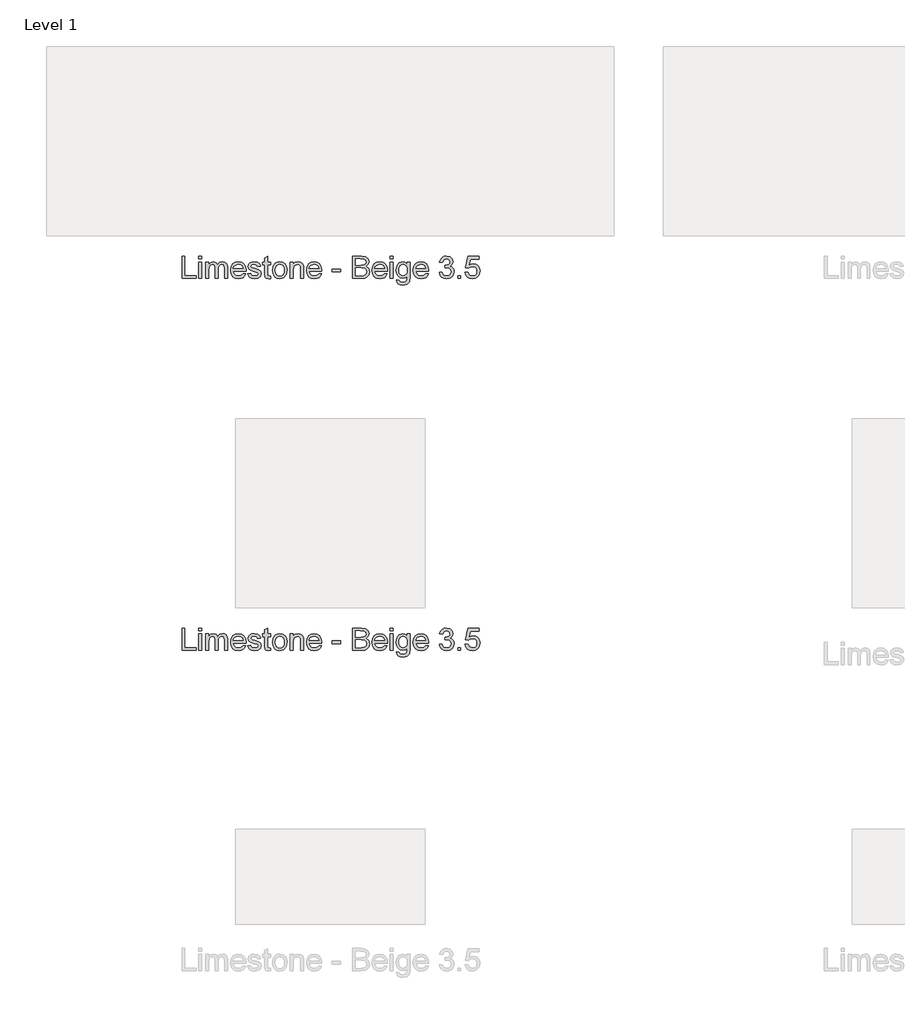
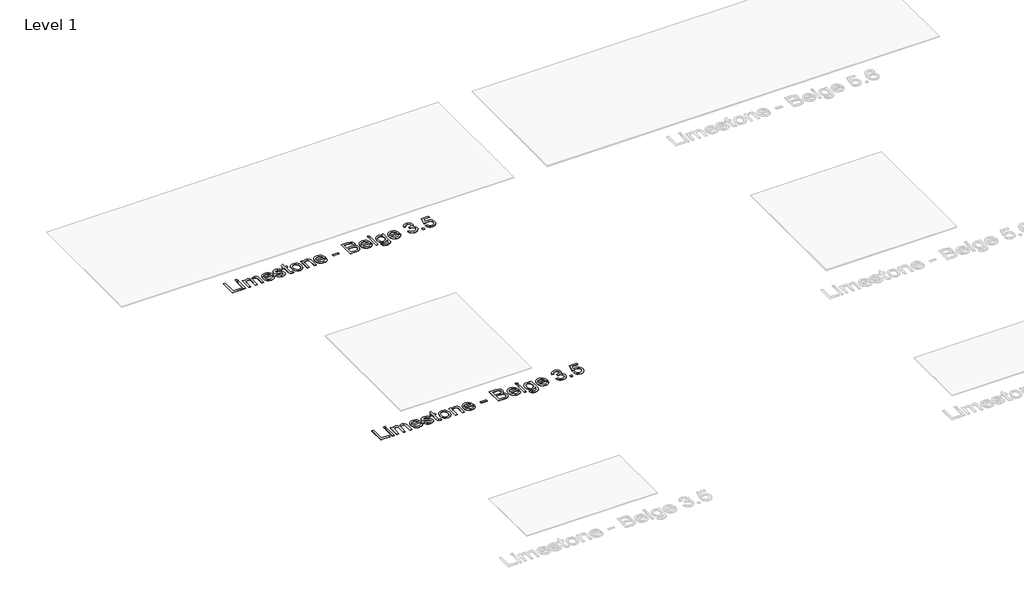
# One storey, part 71 of 80: 2 proxies.
"""IFC4 building model written with IfcOpenShell, lengths in millimetres."""

from ifc_helpers import new_model, si_unit, origin, origin_with_axes, place, context, project, spatial, polyline, outline, extrude, element, save

model = new_model("IFC4")

# Units and contexts
model_context = context("Model", 3, world=origin())
ifc_project = project(units=[si_unit("LENGTHUNIT", "METRE", prefix="MILLI")], contexts=[model_context])

# Site, building, storey
site = spatial("IfcSite", under=ifc_project)
building = spatial("IfcBuilding", under=site)
storey = spatial("IfcBuildingStorey", under=building, Name="Level 1", Elevation=0.0)

# Proxies
placement = place(None, origin())
element("IfcBuildingElementProxy", 1, Name="24\" Arial", ObjectType="24\" Arial", at=placement, inside=storey, context=model_context, shape_type="SweptSolid", body=[
    extrude(outline(polyline([(12550.7700459, 10765.2173189), (12550.7700459, 10883.3711651), (12565.5392767, 10883.3711651), (12565.5392767, 10779.9865497), (12624.6161998, 10779.9865497), (12624.6161998, 10765.2173189), (12550.7700459, 10765.2173189)])), origin_with_axes(), (0.0, 0.0, 1.0), 2.0),
    extrude(outline(polyline([(12639.3854306, 10868.6019343), (12639.3854306, 10883.3711651), (12654.1546613, 10883.3711651), (12654.1546613, 10868.6019343), (12639.3854306, 10868.6019343)])), origin_with_axes(), (0.0, 0.0, 1.0), 2.0),
    extrude(outline(polyline([(12639.3854306, 10765.2173189), (12639.3854306, 10851.9865497), (12654.1546613, 10851.9865497), (12654.1546613, 10765.2173189), (12639.3854306, 10765.2173189)])), origin_with_axes(), (0.0, 0.0, 1.0), 2.0),
    extrude(outline(polyline([(12676.3085075, 10765.2173189), (12676.3085075, 10851.9865497), (12691.0777383, 10851.9865497), (12691.0777383, 10837.7077035), (12701.2315844, 10849.4048189), (12715.6835075, 10853.8327035), (12730.4815844, 10849.3182805), (12738.6161998, 10836.669242), (12750.1402383, 10849.5418381), (12764.6931229, 10853.8327035), (12775.7952863, 10852.0478478), (12784.0056229, 10846.6932805), (12789.0789402, 10837.6247708), (12790.7700459, 10824.6980881), (12790.7700459, 10765.2173189), (12776.0008152, 10765.2173189), (12776.0008152, 10818.3519343), (12774.6306229, 10830.6836651), (12769.6690844, 10836.7557805), (12761.2315844, 10839.0634728), (12753.2303825, 10837.5851074), (12746.7075459, 10833.1500112), (12742.3698056, 10825.4552997), (12740.9238921, 10814.1980881), (12740.9238921, 10765.2173189), (12726.1546613, 10765.2173189), (12726.1546613, 10819.9961651), (12722.7363921, 10834.3038574), (12711.5296613, 10839.0634728), (12700.596969, 10835.8903958), (12693.3277383, 10826.6019343), (12691.0777383, 10808.9769343), (12691.0777383, 10765.2173189), (12676.3085075, 10765.2173189)])), origin_with_axes(), (0.0, 0.0, 1.0), 2.0),
    extrude(outline(polyline([(12873.6738921, 10791.0634728), (12888.1546613, 10789.2173189), (12882.9371133, 10778.3062612), (12874.6113921, 10770.1500112), (12863.3649979, 10765.0658766), (12849.3854306, 10763.3711651), (12832.0561036, 10766.2954439), (12818.721969, 10775.0682805), (12810.2195652, 10789.1199631), (12807.3854306, 10807.8807805), (12810.2484113, 10827.2726074), (12818.8373536, 10841.7750112), (12831.9911998, 10850.8182805), (12848.5488921, 10853.8327035), (12864.5909594, 10850.825492), (12877.409469, 10841.8038574), (12885.8145171, 10827.3302997), (12888.6161998, 10807.9673189), (12888.5296613, 10803.9865497), (12822.1546613, 10803.9865497), (12824.7111517, 10792.9312612), (12830.6498536, 10784.8038574), (12839.2207671, 10779.8062612), (12849.6738921, 10778.1403958), (12864.1546613, 10781.2269343), (12873.6738921, 10791.0634728)]), holes=[polyline([(12822.1546613, 10818.7557805), (12873.846969, 10818.7557805), (12867.9335075, 10832.1403958), (12859.3229306, 10837.3327035), (12848.4911998, 10839.0634728), (12830.3036998, 10833.5394343), (12824.581344, 10827.0815016), (12822.1546613, 10818.7557805)])]), origin_with_axes(), (0.0, 0.0, 1.0), 2.0),
    extrude(outline(polyline([(12897.846969, 10791.0634728), (12912.6161998, 10792.9096266), (12919.4527383, 10781.9480881), (12935.1161998, 10778.1403958), (12950.1738921, 10781.6307805), (12955.0777383, 10789.8230881), (12950.1450459, 10796.4577035), (12934.9431229, 10800.669242), (12912.7027383, 10807.8952035), (12902.9960075, 10816.3327035), (12899.6931229, 10828.2461651), (12902.346969, 10839.2509728), (12909.5873536, 10847.6596266), (12918.9767767, 10852.0298189), (12931.6835075, 10853.8327035), (12949.6546613, 10850.9336651), (12961.0777383, 10843.0875112), (12966.1546613, 10829.8327035), (12951.3854306, 10827.9865497), (12945.8325459, 10836.1355881), (12932.8373536, 10839.0634728), (12918.7027383, 10836.2653958), (12914.4623536, 10829.7461651), (12916.221969, 10825.4480881), (12921.7315844, 10822.1884728), (12934.4527383, 10819.044242), (12956.1306229, 10812.0923189), (12966.1979306, 10804.2173189), (12969.846969, 10791.3807805), (12965.5633152, 10777.2461651), (12953.2027383, 10766.9913574), (12934.9142767, 10763.3711651), (12920.0224498, 10765.1163574), (12909.1546613, 10770.3519343), (12901.8998536, 10779.0202035), (12897.846969, 10791.0634728)])), origin_with_axes(), (0.0, 0.0, 1.0), 2.0),
    extrude(outline(polyline([(13017.846969, 10777.5346266), (13019.6931229, 10764.7846266), (13008.6450459, 10763.3711651), (12996.2700459, 10765.8230881), (12990.096969, 10772.2557805), (12988.3085075, 10789.0153958), (12988.3085075, 10837.2173189), (12977.2315844, 10837.2173189), (12977.2315844, 10851.9865497), (12988.3085075, 10851.9865497), (12988.3085075, 10873.0730881), (13003.0777383, 10881.7557805), (13003.0777383, 10851.9865497), (13017.846969, 10851.9865497), (13017.846969, 10837.2173189), (13003.0777383, 10837.2173189), (13003.0777383, 10789.4480881), (13003.8565844, 10781.8327035), (13006.3806229, 10779.1355881), (13011.4142767, 10778.1403958), (13017.846969, 10777.5346266)])), origin_with_axes(), (0.0, 0.0, 1.0), 2.0),
    extrude(outline(polyline([(13028.9238921, 10808.6019343), (13032.1186036, 10829.5226074), (13041.7027383, 10844.2269343), (13053.5440844, 10851.4312612), (13067.721969, 10853.8327035), (13083.237594, 10850.9084247), (13095.6306229, 10842.1355881), (13103.7544209, 10828.2065016), (13106.4623536, 10809.8134728), (13101.6738921, 10783.5346266), (13087.7267767, 10768.6644343), (13067.721969, 10763.3711651), (13052.018844, 10766.2846266), (13039.6402383, 10775.0250112), (13031.6029786, 10789.2461651), (13028.9238921, 10808.6019343)]), holes=[polyline([(13043.6931229, 10808.6307805), (13045.4022575, 10795.2641939), (13050.5296613, 10785.7413574), (13058.2460075, 10780.0406362), (13067.721969, 10778.1403958), (13077.1546613, 10780.0514535), (13084.8565844, 10785.7846266), (13089.9839883, 10795.4336651), (13091.6931229, 10809.0923189), (13089.9731709, 10822.0694824), (13084.8133152, 10831.4625112), (13077.1005748, 10837.1632324), (13067.721969, 10839.0634728), (13058.2460075, 10837.1704439), (13050.5296613, 10831.4913574), (13045.4022575, 10821.9901555), (13043.6931229, 10808.6307805)])]), origin_with_axes(), (0.0, 0.0, 1.0), 2.0),
    extrude(outline(polyline([(13123.0777383, 10765.2173189), (13123.0777383, 10851.9865497), (13137.846969, 10851.9865497), (13137.846969, 10839.8711651), (13149.1402383, 10850.3423189), (13164.5585075, 10853.8327035), (13178.5056229, 10851.0202035), (13188.0248536, 10843.6355881), (13192.4527383, 10832.7750112), (13193.2315844, 10818.4961651), (13193.2315844, 10765.2173189), (13178.4623536, 10765.2173189), (13178.4623536, 10816.5057805), (13176.7604306, 10829.5730881), (13170.7460075, 10836.481742), (13160.6065844, 10839.0634728), (13144.5825459, 10833.2653958), (13139.5308633, 10824.8639535), (13137.846969, 10811.2557805), (13137.846969, 10765.2173189), (13123.0777383, 10765.2173189)])), origin_with_axes(), (0.0, 0.0, 1.0), 2.0),
    extrude(outline(polyline([(13274.2892767, 10791.0634728), (13288.7700459, 10789.2173189), (13283.5524979, 10778.3062612), (13275.2267767, 10770.1500112), (13263.9803825, 10765.0658766), (13250.0008152, 10763.3711651), (13232.6714883, 10766.2954439), (13219.3373536, 10775.0682805), (13210.8349498, 10789.1199631), (13208.0008152, 10807.8807805), (13210.8637959, 10827.2726074), (13219.4527383, 10841.7750112), (13232.6065844, 10850.8182805), (13249.1642767, 10853.8327035), (13265.206344, 10850.825492), (13278.0248536, 10841.8038574), (13286.4299017, 10827.3302997), (13289.2315844, 10807.9673189), (13289.1450459, 10803.9865497), (13222.7700459, 10803.9865497), (13225.3265363, 10792.9312612), (13231.2652383, 10784.8038574), (13239.8361517, 10779.8062612), (13250.2892767, 10778.1403958), (13264.7700459, 10781.2269343), (13274.2892767, 10791.0634728)]), holes=[polyline([(13222.7700459, 10818.7557805), (13274.4623536, 10818.7557805), (13268.5488921, 10832.1403958), (13259.9383152, 10837.3327035), (13249.1065844, 10839.0634728), (13230.9190844, 10833.5394343), (13225.1967286, 10827.0815016), (13222.7700459, 10818.7557805)])]), origin_with_axes(), (0.0, 0.0, 1.0), 2.0),
    extrude(outline(polyline([(13342.7700459, 10800.294242), (13342.7700459, 10815.0634728), (13388.9238921, 10815.0634728), (13388.9238921, 10800.294242), (13342.7700459, 10800.294242)])), origin_with_axes(), (0.0, 0.0, 1.0), 2.0),
    extrude(outline(polyline([(13453.5392767, 10765.2173189), (13453.5392767, 10883.3711651), (13498.6258152, 10883.3711651), (13520.7075459, 10879.8952035), (13533.7460075, 10869.2077035), (13538.4623536, 10854.0923189), (13534.4960075, 10840.2894343), (13522.5104306, 10829.8327035), (13537.0633152, 10818.8134728), (13542.1546613, 10800.4384728), (13538.6786998, 10784.5586651), (13530.0681229, 10773.2509728), (13517.2171613, 10767.2509728), (13498.2796613, 10765.2173189), (13453.5392767, 10765.2173189)]), holes=[polyline([(13468.3085075, 10779.9865497), (13498.596969, 10779.9865497), (13509.5585075, 10780.5634728), (13518.8325459, 10783.7798189), (13524.9767767, 10790.3423189), (13527.3854306, 10800.294242), (13524.5585075, 10811.7750112), (13515.3998536, 10818.6259728), (13497.1546613, 10820.6019343), (13468.3085075, 10820.6019343), (13468.3085075, 10779.9865497)]), polyline([(13468.3085075, 10835.3711651), (13495.2796613, 10835.3711651), (13511.0296613, 10836.6403958), (13520.5056229, 10842.106742), (13523.6931229, 10851.7269343), (13520.721969, 10861.3615497), (13512.2123536, 10867.0586651), (13493.2315844, 10868.6019343), (13468.3085075, 10868.6019343), (13468.3085075, 10835.3711651)])]), origin_with_axes(), (0.0, 0.0, 1.0), 2.0),
    extrude(outline(polyline([(13621.3661998, 10791.0634728), (13635.846969, 10789.2173189), (13630.6294209, 10778.3062612), (13622.3036998, 10770.1500112), (13611.0573056, 10765.0658766), (13597.0777383, 10763.3711651), (13579.7484113, 10766.2954439), (13566.4142767, 10775.0682805), (13557.9118729, 10789.1199631), (13555.0777383, 10807.8807805), (13557.940719, 10827.2726074), (13566.5296613, 10841.7750112), (13579.6835075, 10850.8182805), (13596.2411998, 10853.8327035), (13612.2832671, 10850.825492), (13625.1017767, 10841.8038574), (13633.5068248, 10827.3302997), (13636.3085075, 10807.9673189), (13636.221969, 10803.9865497), (13569.846969, 10803.9865497), (13572.4034594, 10792.9312612), (13578.3421613, 10784.8038574), (13586.9130748, 10779.8062612), (13597.3661998, 10778.1403958), (13611.846969, 10781.2269343), (13621.3661998, 10791.0634728)]), holes=[polyline([(13569.846969, 10818.7557805), (13621.5392767, 10818.7557805), (13615.6258152, 10832.1403958), (13607.0152383, 10837.3327035), (13596.1835075, 10839.0634728), (13577.9960075, 10833.5394343), (13572.2736517, 10827.0815016), (13569.846969, 10818.7557805)])]), origin_with_axes(), (0.0, 0.0, 1.0), 2.0),
    extrude(outline(polyline([(13651.0777383, 10765.2173189), (13651.0777383, 10851.9865497), (13665.846969, 10851.9865497), (13665.846969, 10765.2173189), (13651.0777383, 10765.2173189)])), origin_with_axes(), (0.0, 0.0, 1.0), 2.0),
    extrude(outline(polyline([(13651.0777383, 10868.6019343), (13651.0777383, 10883.3711651), (13665.846969, 10883.3711651), (13665.846969, 10868.6019343), (13651.0777383, 10868.6019343)])), origin_with_axes(), (0.0, 0.0, 1.0), 2.0),
    extrude(outline(polyline([(13684.3085075, 10757.8327035), (13699.0777383, 10755.9865497), (13703.8661998, 10748.1980881), (13718.2027383, 10744.9096266), (13733.3181229, 10748.6307805), (13740.5296613, 10759.0730881), (13741.5392767, 10776.294242), (13731.1402383, 10767.9865497), (13718.4623536, 10765.2173189), (13703.2351902, 10768.4408766), (13691.8806229, 10778.1115497), (13684.8169209, 10792.2894343), (13682.4623536, 10809.0346266), (13686.6883152, 10831.9240497), (13698.9190844, 10848.1211651), (13717.7411998, 10853.8327035), (13730.9166806, 10850.6019343), (13741.5392767, 10840.9096266), (13741.5392767, 10851.9865497), (13756.3085075, 10851.9865497), (13756.3085075, 10777.0730881), (13752.2700459, 10748.3855881), (13739.4767767, 10735.044242), (13717.9142767, 10730.1403958), (13704.1726902, 10731.8675593), (13693.3517767, 10737.0490497), (13686.4106709, 10745.6992901), (13684.3085075, 10757.8327035)]), holes=[polyline([(13697.2315844, 10810.044242), (13698.8073056, 10796.497367), (13703.534469, 10787.1836651), (13710.6414402, 10781.7858285), (13719.3565844, 10779.9865497), (13728.0068248, 10781.7750112), (13735.1498536, 10787.1403958), (13739.9419209, 10796.3351074), (13741.5392767, 10809.6115497), (13739.8950459, 10822.4156362), (13734.9623536, 10831.6355881), (13727.7147575, 10837.2065016), (13719.1258152, 10839.0634728), (13710.6919209, 10837.2353478), (13703.6210075, 10831.7509728), (13698.8289402, 10822.6680401), (13697.2315844, 10810.044242)])]), origin_with_axes(), (0.0, 0.0, 1.0), 2.0),
    extrude(outline(polyline([(13839.2123536, 10791.0634728), (13853.6931229, 10789.2173189), (13848.4755748, 10778.3062612), (13840.1498536, 10770.1500112), (13828.9034594, 10765.0658766), (13814.9238921, 10763.3711651), (13797.5945652, 10766.2954439), (13784.2604306, 10775.0682805), (13775.7580267, 10789.1199631), (13772.9238921, 10807.8807805), (13775.7868729, 10827.2726074), (13784.3758152, 10841.7750112), (13797.5296613, 10850.8182805), (13814.0873536, 10853.8327035), (13830.1294209, 10850.825492), (13842.9479306, 10841.8038574), (13851.3529786, 10827.3302997), (13854.1546613, 10807.9673189), (13854.0681229, 10803.9865497), (13787.6931229, 10803.9865497), (13790.2496133, 10792.9312612), (13796.1883152, 10784.8038574), (13804.7592286, 10779.8062612), (13815.2123536, 10778.1403958), (13829.6931229, 10781.2269343), (13839.2123536, 10791.0634728)]), holes=[polyline([(13787.6931229, 10818.7557805), (13839.3854306, 10818.7557805), (13833.471969, 10832.1403958), (13824.8613921, 10837.3327035), (13814.0296613, 10839.0634728), (13795.8421613, 10833.5394343), (13790.1198056, 10827.0815016), (13787.6931229, 10818.7557805)])]), origin_with_axes(), (0.0, 0.0, 1.0), 2.0),
    extrude(outline(polyline([(13911.3854306, 10796.6019343), (13926.1546613, 10798.4480881), (13934.3036998, 10782.9000112), (13949.5488921, 10778.1403958), (13959.6738921, 10779.7774151), (13967.4911998, 10784.6884728), (13972.4887959, 10792.0153958), (13974.1546613, 10800.9000112), (13972.503219, 10809.3339055), (13967.5488921, 10816.1740497), (13960.0488921, 10820.7065016), (13950.7604306, 10822.2173189), (13940.4046613, 10820.6019343), (13942.0488921, 10835.3711651), (13944.4142767, 10835.1980881), (13961.1738921, 10839.4384728), (13966.7556229, 10844.8182805), (13968.6161998, 10852.4769343), (13963.221969, 10864.0298189), (13949.3181229, 10868.6019343), (13935.2411998, 10863.9865497), (13928.0008152, 10850.1403958), (13913.2315844, 10851.9865497), (13917.5801421, 10865.2485689), (13925.3181229, 10875.1500112), (13935.9046613, 10881.3158766), (13948.7988921, 10883.3711651), (13966.6113921, 10879.3182805), (13979.0729306, 10868.2413574), (13983.3854306, 10853.3423189), (13979.2892767, 10839.7269343), (13967.1738921, 10829.9480881), (13976.4190844, 10826.2125112), (13983.2700459, 10819.8519343), (13987.5104306, 10811.2125112), (13988.9238921, 10800.6403958), (13986.096969, 10786.2461651), (13977.6161998, 10774.2173189), (13964.815719, 10766.0827035), (13949.0296613, 10763.3711651), (13934.7508152, 10765.6860689), (13923.1258152, 10772.6307805), (13915.0416806, 10783.2533766), (13911.3854306, 10796.6019343)])), origin_with_axes(), (0.0, 0.0, 1.0), 2.0),
    extrude(outline(polyline([(14009.2315844, 10765.2173189), (14009.2315844, 10779.9865497), (14024.0008152, 10779.9865497), (14024.0008152, 10765.2173189), (14009.2315844, 10765.2173189)])), origin_with_axes(), (0.0, 0.0, 1.0), 2.0),
    extrude(outline(polyline([(14048.0008152, 10796.6019343), (14062.7700459, 10798.4480881), (14070.2123536, 10783.231742), (14085.6450459, 10778.1403958), (14096.2315844, 10779.9108285), (14104.1642767, 10785.2221266), (14109.1186036, 10793.4613093), (14110.7700459, 10804.0153958), (14109.2231709, 10813.9528958), (14104.5825459, 10821.5538574), (14096.8121133, 10826.3783766), (14085.8758152, 10827.9865497), (14072.909469, 10825.419242), (14064.6161998, 10818.7557805), (14049.846969, 10820.6019343), (14062.7700459, 10881.5250112), (14120.0008152, 10881.5250112), (14120.0008152, 10866.7557805), (14074.7123536, 10866.7557805), (14068.3950459, 10834.2173189), (14078.9455267, 10840.6211651), (14090.0008152, 10842.7557805), (14103.800094, 10840.1091458), (14115.2556229, 10832.169242), (14122.9683633, 10820.0682805), (14125.5392767, 10804.9384728), (14123.2243729, 10790.169242), (14116.2796613, 10777.5346266), (14102.9815844, 10766.9120305), (14085.5873536, 10763.3711651), (14071.081344, 10765.6464055), (14059.5248536, 10772.4721266), (14051.6029786, 10783.0550593), (14048.0008152, 10796.6019343)])), origin_with_axes(), (0.0, 0.0, 1.0), 2.0),
])
element("IfcBuildingElementProxy", 2, Name="24\" Arial", ObjectType="24\" Arial", at=placement, inside=storey, context=model_context, shape_type="SweptSolid", body=[
    extrude(outline(polyline([(12550.7700459, 8799.8902761), (12550.7700459, 8918.0441223), (12565.5392767, 8918.0441223), (12565.5392767, 8814.6595069), (12624.6161998, 8814.6595069), (12624.6161998, 8799.8902761), (12550.7700459, 8799.8902761)])), origin_with_axes(), (0.0, 0.0, 1.0), 2.0),
    extrude(outline(polyline([(12639.3854306, 8903.2748915), (12639.3854306, 8918.0441223), (12654.1546613, 8918.0441223), (12654.1546613, 8903.2748915), (12639.3854306, 8903.2748915)])), origin_with_axes(), (0.0, 0.0, 1.0), 2.0),
    extrude(outline(polyline([(12639.3854306, 8799.8902761), (12639.3854306, 8886.6595069), (12654.1546613, 8886.6595069), (12654.1546613, 8799.8902761), (12639.3854306, 8799.8902761)])), origin_with_axes(), (0.0, 0.0, 1.0), 2.0),
    extrude(outline(polyline([(12676.3085075, 8799.8902761), (12676.3085075, 8886.6595069), (12691.0777383, 8886.6595069), (12691.0777383, 8872.3806607), (12701.2315844, 8884.0777761), (12715.6835075, 8888.5056607), (12730.4815844, 8883.9912376), (12738.6161998, 8871.3421992), (12750.1402383, 8884.2147953), (12764.6931229, 8888.5056607), (12775.7952863, 8886.720805), (12784.0056229, 8881.3662376), (12789.0789402, 8872.297728), (12790.7700459, 8859.3710453), (12790.7700459, 8799.8902761), (12776.0008152, 8799.8902761), (12776.0008152, 8853.0248915), (12774.6306229, 8865.3566223), (12769.6690844, 8871.4287376), (12761.2315844, 8873.73643), (12753.2303825, 8872.2580646), (12746.7075459, 8867.8229684), (12742.3698056, 8860.1282569), (12740.9238921, 8848.8710453), (12740.9238921, 8799.8902761), (12726.1546613, 8799.8902761), (12726.1546613, 8854.6691223), (12722.7363921, 8868.9768146), (12711.5296613, 8873.73643), (12700.596969, 8870.563353), (12693.3277383, 8861.2748915), (12691.0777383, 8843.6498915), (12691.0777383, 8799.8902761), (12676.3085075, 8799.8902761)])), origin_with_axes(), (0.0, 0.0, 1.0), 2.0),
    extrude(outline(polyline([(12873.6738921, 8825.73643), (12888.1546613, 8823.8902761), (12882.9371133, 8812.9792184), (12874.6113921, 8804.8229684), (12863.3649979, 8799.7388338), (12849.3854306, 8798.0441223), (12832.0561036, 8800.9684011), (12818.721969, 8809.7412376), (12810.2195652, 8823.7929203), (12807.3854306, 8842.5537376), (12810.2484113, 8861.9455646), (12818.8373536, 8876.4479684), (12831.9911998, 8885.4912376), (12848.5488921, 8888.5056607), (12864.5909594, 8885.4984492), (12877.409469, 8876.4768146), (12885.8145171, 8862.0032569), (12888.6161998, 8842.6402761), (12888.5296613, 8838.6595069), (12822.1546613, 8838.6595069), (12824.7111517, 8827.6042184), (12830.6498536, 8819.4768146), (12839.2207671, 8814.4792184), (12849.6738921, 8812.813353), (12864.1546613, 8815.8998915), (12873.6738921, 8825.73643)]), holes=[polyline([(12822.1546613, 8853.4287376), (12873.846969, 8853.4287376), (12867.9335075, 8866.813353), (12859.3229306, 8872.0056607), (12848.4911998, 8873.73643), (12830.3036998, 8868.2123915), (12824.581344, 8861.7544588), (12822.1546613, 8853.4287376)])]), origin_with_axes(), (0.0, 0.0, 1.0), 2.0),
    extrude(outline(polyline([(12897.846969, 8825.73643), (12912.6161998, 8827.5825838), (12919.4527383, 8816.6210453), (12935.1161998, 8812.813353), (12950.1738921, 8816.3037376), (12955.0777383, 8824.4960453), (12950.1450459, 8831.1306607), (12934.9431229, 8835.3421992), (12912.7027383, 8842.5681607), (12902.9960075, 8851.0056607), (12899.6931229, 8862.9191223), (12902.346969, 8873.92393), (12909.5873536, 8882.3325838), (12918.9767767, 8886.7027761), (12931.6835075, 8888.5056607), (12949.6546613, 8885.6066223), (12961.0777383, 8877.7604684), (12966.1546613, 8864.5056607), (12951.3854306, 8862.6595069), (12945.8325459, 8870.8085453), (12932.8373536, 8873.73643), (12918.7027383, 8870.938353), (12914.4623536, 8864.4191223), (12916.221969, 8860.1210453), (12921.7315844, 8856.86143), (12934.4527383, 8853.7171992), (12956.1306229, 8846.7652761), (12966.1979306, 8838.8902761), (12969.846969, 8826.0537376), (12965.5633152, 8811.9191223), (12953.2027383, 8801.6643146), (12934.9142767, 8798.0441223), (12920.0224498, 8799.7893146), (12909.1546613, 8805.0248915), (12901.8998536, 8813.6931607), (12897.846969, 8825.73643)])), origin_with_axes(), (0.0, 0.0, 1.0), 2.0),
    extrude(outline(polyline([(13017.846969, 8812.2075838), (13019.6931229, 8799.4575838), (13008.6450459, 8798.0441223), (12996.2700459, 8800.4960453), (12990.096969, 8806.9287376), (12988.3085075, 8823.688353), (12988.3085075, 8871.8902761), (12977.2315844, 8871.8902761), (12977.2315844, 8886.6595069), (12988.3085075, 8886.6595069), (12988.3085075, 8907.7460453), (13003.0777383, 8916.4287376), (13003.0777383, 8886.6595069), (13017.846969, 8886.6595069), (13017.846969, 8871.8902761), (13003.0777383, 8871.8902761), (13003.0777383, 8824.1210453), (13003.8565844, 8816.5056607), (13006.3806229, 8813.8085453), (13011.4142767, 8812.813353), (13017.846969, 8812.2075838)])), origin_with_axes(), (0.0, 0.0, 1.0), 2.0),
    extrude(outline(polyline([(13028.9238921, 8843.2748915), (13032.1186036, 8864.1955646), (13041.7027383, 8878.8998915), (13053.5440844, 8886.1042184), (13067.721969, 8888.5056607), (13083.237594, 8885.5813819), (13095.6306229, 8876.8085453), (13103.7544209, 8862.8794588), (13106.4623536, 8844.48643), (13101.6738921, 8818.2075838), (13087.7267767, 8803.3373915), (13067.721969, 8798.0441223), (13052.018844, 8800.9575838), (13039.6402383, 8809.6979684), (13031.6029786, 8823.9191223), (13028.9238921, 8843.2748915)]), holes=[polyline([(13043.6931229, 8843.3037376), (13045.4022575, 8829.9371511), (13050.5296613, 8820.4143146), (13058.2460075, 8814.7135934), (13067.721969, 8812.813353), (13077.1546613, 8814.7244107), (13084.8565844, 8820.4575838), (13089.9839883, 8830.1066223), (13091.6931229, 8843.7652761), (13089.9731709, 8856.7424396), (13084.8133152, 8866.1354684), (13077.1005748, 8871.8361896), (13067.721969, 8873.73643), (13058.2460075, 8871.8434011), (13050.5296613, 8866.1643146), (13045.4022575, 8856.6631126), (13043.6931229, 8843.3037376)])]), origin_with_axes(), (0.0, 0.0, 1.0), 2.0),
    extrude(outline(polyline([(13123.0777383, 8799.8902761), (13123.0777383, 8886.6595069), (13137.846969, 8886.6595069), (13137.846969, 8874.5441223), (13149.1402383, 8885.0152761), (13164.5585075, 8888.5056607), (13178.5056229, 8885.6931607), (13188.0248536, 8878.3085453), (13192.4527383, 8867.4479684), (13193.2315844, 8853.1691223), (13193.2315844, 8799.8902761), (13178.4623536, 8799.8902761), (13178.4623536, 8851.1787376), (13176.7604306, 8864.2460453), (13170.7460075, 8871.1546992), (13160.6065844, 8873.73643), (13144.5825459, 8867.938353), (13139.5308633, 8859.5369107), (13137.846969, 8845.9287376), (13137.846969, 8799.8902761), (13123.0777383, 8799.8902761)])), origin_with_axes(), (0.0, 0.0, 1.0), 2.0),
    extrude(outline(polyline([(13274.2892767, 8825.73643), (13288.7700459, 8823.8902761), (13283.5524979, 8812.9792184), (13275.2267767, 8804.8229684), (13263.9803825, 8799.7388338), (13250.0008152, 8798.0441223), (13232.6714883, 8800.9684011), (13219.3373536, 8809.7412376), (13210.8349498, 8823.7929203), (13208.0008152, 8842.5537376), (13210.8637959, 8861.9455646), (13219.4527383, 8876.4479684), (13232.6065844, 8885.4912376), (13249.1642767, 8888.5056607), (13265.206344, 8885.4984492), (13278.0248536, 8876.4768146), (13286.4299017, 8862.0032569), (13289.2315844, 8842.6402761), (13289.1450459, 8838.6595069), (13222.7700459, 8838.6595069), (13225.3265363, 8827.6042184), (13231.2652383, 8819.4768146), (13239.8361517, 8814.4792184), (13250.2892767, 8812.813353), (13264.7700459, 8815.8998915), (13274.2892767, 8825.73643)]), holes=[polyline([(13222.7700459, 8853.4287376), (13274.4623536, 8853.4287376), (13268.5488921, 8866.813353), (13259.9383152, 8872.0056607), (13249.1065844, 8873.73643), (13230.9190844, 8868.2123915), (13225.1967286, 8861.7544588), (13222.7700459, 8853.4287376)])]), origin_with_axes(), (0.0, 0.0, 1.0), 2.0),
    extrude(outline(polyline([(13342.7700459, 8834.9671992), (13342.7700459, 8849.73643), (13388.9238921, 8849.73643), (13388.9238921, 8834.9671992), (13342.7700459, 8834.9671992)])), origin_with_axes(), (0.0, 0.0, 1.0), 2.0),
    extrude(outline(polyline([(13453.5392767, 8799.8902761), (13453.5392767, 8918.0441223), (13498.6258152, 8918.0441223), (13520.7075459, 8914.5681607), (13533.7460075, 8903.8806607), (13538.4623536, 8888.7652761), (13534.4960075, 8874.9623915), (13522.5104306, 8864.5056607), (13537.0633152, 8853.48643), (13542.1546613, 8835.11143), (13538.6786998, 8819.2316223), (13530.0681229, 8807.92393), (13517.2171613, 8801.92393), (13498.2796613, 8799.8902761), (13453.5392767, 8799.8902761)]), holes=[polyline([(13468.3085075, 8814.6595069), (13498.596969, 8814.6595069), (13509.5585075, 8815.23643), (13518.8325459, 8818.4527761), (13524.9767767, 8825.0152761), (13527.3854306, 8834.9671992), (13524.5585075, 8846.4479684), (13515.3998536, 8853.29893), (13497.1546613, 8855.2748915), (13468.3085075, 8855.2748915), (13468.3085075, 8814.6595069)]), polyline([(13468.3085075, 8870.0441223), (13495.2796613, 8870.0441223), (13511.0296613, 8871.313353), (13520.5056229, 8876.7796992), (13523.6931229, 8886.3998915), (13520.721969, 8896.0345069), (13512.2123536, 8901.7316223), (13493.2315844, 8903.2748915), (13468.3085075, 8903.2748915), (13468.3085075, 8870.0441223)])]), origin_with_axes(), (0.0, 0.0, 1.0), 2.0),
    extrude(outline(polyline([(13621.3661998, 8825.73643), (13635.846969, 8823.8902761), (13630.6294209, 8812.9792184), (13622.3036998, 8804.8229684), (13611.0573056, 8799.7388338), (13597.0777383, 8798.0441223), (13579.7484113, 8800.9684011), (13566.4142767, 8809.7412376), (13557.9118729, 8823.7929203), (13555.0777383, 8842.5537376), (13557.940719, 8861.9455646), (13566.5296613, 8876.4479684), (13579.6835075, 8885.4912376), (13596.2411998, 8888.5056607), (13612.2832671, 8885.4984492), (13625.1017767, 8876.4768146), (13633.5068248, 8862.0032569), (13636.3085075, 8842.6402761), (13636.221969, 8838.6595069), (13569.846969, 8838.6595069), (13572.4034594, 8827.6042184), (13578.3421613, 8819.4768146), (13586.9130748, 8814.4792184), (13597.3661998, 8812.813353), (13611.846969, 8815.8998915), (13621.3661998, 8825.73643)]), holes=[polyline([(13569.846969, 8853.4287376), (13621.5392767, 8853.4287376), (13615.6258152, 8866.813353), (13607.0152383, 8872.0056607), (13596.1835075, 8873.73643), (13577.9960075, 8868.2123915), (13572.2736517, 8861.7544588), (13569.846969, 8853.4287376)])]), origin_with_axes(), (0.0, 0.0, 1.0), 2.0),
    extrude(outline(polyline([(13651.0777383, 8799.8902761), (13651.0777383, 8886.6595069), (13665.846969, 8886.6595069), (13665.846969, 8799.8902761), (13651.0777383, 8799.8902761)])), origin_with_axes(), (0.0, 0.0, 1.0), 2.0),
    extrude(outline(polyline([(13651.0777383, 8903.2748915), (13651.0777383, 8918.0441223), (13665.846969, 8918.0441223), (13665.846969, 8903.2748915), (13651.0777383, 8903.2748915)])), origin_with_axes(), (0.0, 0.0, 1.0), 2.0),
    extrude(outline(polyline([(13684.3085075, 8792.5056607), (13699.0777383, 8790.6595069), (13703.8661998, 8782.8710453), (13718.2027383, 8779.5825838), (13733.3181229, 8783.3037376), (13740.5296613, 8793.7460453), (13741.5392767, 8810.9671992), (13731.1402383, 8802.6595069), (13718.4623536, 8799.8902761), (13703.2351902, 8803.1138338), (13691.8806229, 8812.7845069), (13684.8169209, 8826.9623915), (13682.4623536, 8843.7075838), (13686.6883152, 8866.5970069), (13698.9190844, 8882.7941223), (13717.7411998, 8888.5056607), (13730.9166806, 8885.2748915), (13741.5392767, 8875.5825838), (13741.5392767, 8886.6595069), (13756.3085075, 8886.6595069), (13756.3085075, 8811.7460453), (13752.2700459, 8783.0585453), (13739.4767767, 8769.7171992), (13717.9142767, 8764.813353), (13704.1726902, 8766.5405165), (13693.3517767, 8771.7220069), (13686.4106709, 8780.3722473), (13684.3085075, 8792.5056607)]), holes=[polyline([(13697.2315844, 8844.7171992), (13698.8073056, 8831.1703242), (13703.534469, 8821.8566223), (13710.6414402, 8816.4587857), (13719.3565844, 8814.6595069), (13728.0068248, 8816.4479684), (13735.1498536, 8821.813353), (13739.9419209, 8831.0080646), (13741.5392767, 8844.2845069), (13739.8950459, 8857.0885934), (13734.9623536, 8866.3085453), (13727.7147575, 8871.8794588), (13719.1258152, 8873.73643), (13710.6919209, 8871.908305), (13703.6210075, 8866.42393), (13698.8289402, 8857.3409973), (13697.2315844, 8844.7171992)])]), origin_with_axes(), (0.0, 0.0, 1.0), 2.0),
    extrude(outline(polyline([(13839.2123536, 8825.73643), (13853.6931229, 8823.8902761), (13848.4755748, 8812.9792184), (13840.1498536, 8804.8229684), (13828.9034594, 8799.7388338), (13814.9238921, 8798.0441223), (13797.5945652, 8800.9684011), (13784.2604306, 8809.7412376), (13775.7580267, 8823.7929203), (13772.9238921, 8842.5537376), (13775.7868729, 8861.9455646), (13784.3758152, 8876.4479684), (13797.5296613, 8885.4912376), (13814.0873536, 8888.5056607), (13830.1294209, 8885.4984492), (13842.9479306, 8876.4768146), (13851.3529786, 8862.0032569), (13854.1546613, 8842.6402761), (13854.0681229, 8838.6595069), (13787.6931229, 8838.6595069), (13790.2496133, 8827.6042184), (13796.1883152, 8819.4768146), (13804.7592286, 8814.4792184), (13815.2123536, 8812.813353), (13829.6931229, 8815.8998915), (13839.2123536, 8825.73643)]), holes=[polyline([(13787.6931229, 8853.4287376), (13839.3854306, 8853.4287376), (13833.471969, 8866.813353), (13824.8613921, 8872.0056607), (13814.0296613, 8873.73643), (13795.8421613, 8868.2123915), (13790.1198056, 8861.7544588), (13787.6931229, 8853.4287376)])]), origin_with_axes(), (0.0, 0.0, 1.0), 2.0),
    extrude(outline(polyline([(13911.3854306, 8831.2748915), (13926.1546613, 8833.1210453), (13934.3036998, 8817.5729684), (13949.5488921, 8812.813353), (13959.6738921, 8814.4503723), (13967.4911998, 8819.36143), (13972.4887959, 8826.688353), (13974.1546613, 8835.5729684), (13972.503219, 8844.0068626), (13967.5488921, 8850.8470069), (13960.0488921, 8855.3794588), (13950.7604306, 8856.8902761), (13940.4046613, 8855.2748915), (13942.0488921, 8870.0441223), (13944.4142767, 8869.8710453), (13961.1738921, 8874.11143), (13966.7556229, 8879.4912376), (13968.6161998, 8887.1498915), (13963.221969, 8898.7027761), (13949.3181229, 8903.2748915), (13935.2411998, 8898.6595069), (13928.0008152, 8884.813353), (13913.2315844, 8886.6595069), (13917.5801421, 8899.9215261), (13925.3181229, 8909.8229684), (13935.9046613, 8915.9888338), (13948.7988921, 8918.0441223), (13966.6113921, 8913.9912376), (13979.0729306, 8902.9143146), (13983.3854306, 8888.0152761), (13979.2892767, 8874.3998915), (13967.1738921, 8864.6210453), (13976.4190844, 8860.8854684), (13983.2700459, 8854.5248915), (13987.5104306, 8845.8854684), (13988.9238921, 8835.313353), (13986.096969, 8820.9191223), (13977.6161998, 8808.8902761), (13964.815719, 8800.7556607), (13949.0296613, 8798.0441223), (13934.7508152, 8800.3590261), (13923.1258152, 8807.3037376), (13915.0416806, 8817.9263338), (13911.3854306, 8831.2748915)])), origin_with_axes(), (0.0, 0.0, 1.0), 2.0),
    extrude(outline(polyline([(14009.2315844, 8799.8902761), (14009.2315844, 8814.6595069), (14024.0008152, 8814.6595069), (14024.0008152, 8799.8902761), (14009.2315844, 8799.8902761)])), origin_with_axes(), (0.0, 0.0, 1.0), 2.0),
    extrude(outline(polyline([(14048.0008152, 8831.2748915), (14062.7700459, 8833.1210453), (14070.2123536, 8817.9046992), (14085.6450459, 8812.813353), (14096.2315844, 8814.5837857), (14104.1642767, 8819.8950838), (14109.1186036, 8828.1342665), (14110.7700459, 8838.688353), (14109.2231709, 8848.625853), (14104.5825459, 8856.2268146), (14096.8121133, 8861.0513338), (14085.8758152, 8862.6595069), (14072.909469, 8860.0921992), (14064.6161998, 8853.4287376), (14049.846969, 8855.2748915), (14062.7700459, 8916.1979684), (14120.0008152, 8916.1979684), (14120.0008152, 8901.4287376), (14074.7123536, 8901.4287376), (14068.3950459, 8868.8902761), (14078.9455267, 8875.2941223), (14090.0008152, 8877.4287376), (14103.800094, 8874.782103), (14115.2556229, 8866.8421992), (14122.9683633, 8854.7412376), (14125.5392767, 8839.61143), (14123.2243729, 8824.8421992), (14116.2796613, 8812.2075838), (14102.9815844, 8801.5849876), (14085.5873536, 8798.0441223), (14071.081344, 8800.3193626), (14059.5248536, 8807.1450838), (14051.6029786, 8817.7280165), (14048.0008152, 8831.2748915)])), origin_with_axes(), (0.0, 0.0, 1.0), 2.0),
])

save(model, "model.ifc")
